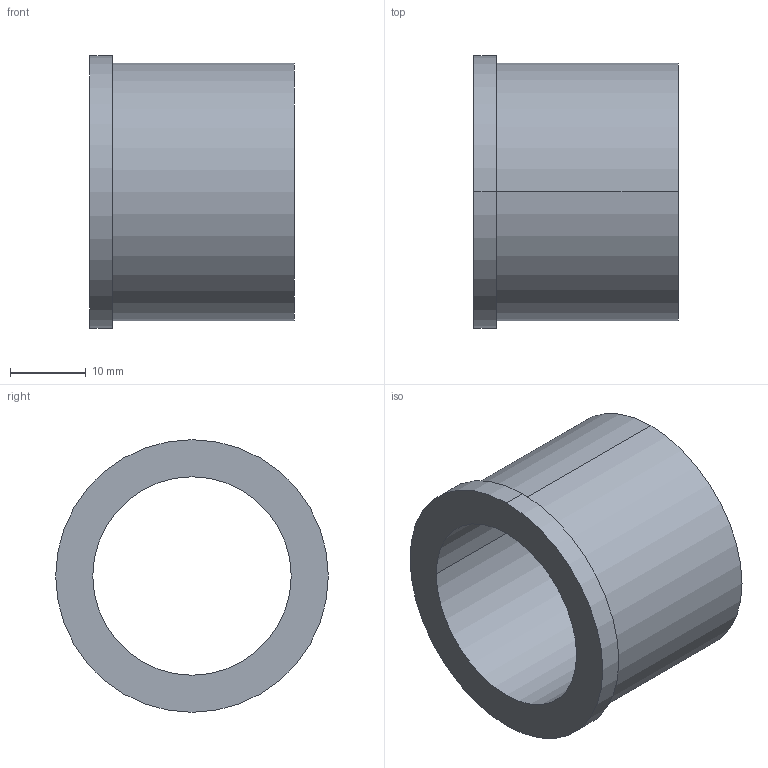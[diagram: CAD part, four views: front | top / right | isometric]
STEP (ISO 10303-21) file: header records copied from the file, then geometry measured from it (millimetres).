
FILE_DESCRIPTION(('Creo Elements/Direct Modeling STEP Export'),'2;1');
FILE_NAME('H21-0006-CL907-00_G36-26.stp','2022-09-15T17:51:39',(''),(''),'Creo Elements/Direct Modeling STEP processor for AP214 (Solid Model)','Creo Elements/Direct Modeling 20.3B 05-Dec-2020 (C) Parametric Technology GmbH','');
FILE_SCHEMA(('AUTOMOTIVE_DESIGN { 1 0 10303 214 1 1 1 1 }'));
Length unit declared in the file: millimetre
Products named in the file (2): H21-0006-CL907-00_G36-26
Assembly tree (1 placements, depth 2):
  H21-0006-CL907-00_G36-26
    H21-0006-CL907-00_G36-26
Bounding box: 27 x 36 x 36 mm (x, y, z)
Volume: 10287.2 mm3; surface area: 6082.7 mm2
Topology: 1 solids, 1 shells, 9 faces, 19 edges, 13 vertices
Faces by surface type: cylinder 6, plane 3
Entity records: 268 total; most frequent: DIRECTION 40, ORIENTED_EDGE 38, CARTESIAN_POINT 36, EDGE_CURVE 19, AXIS2_PLACEMENT_3D 17, VERTEX_POINT 13, EDGE_LOOP 12, FACE_OUTER_BOUND 9
